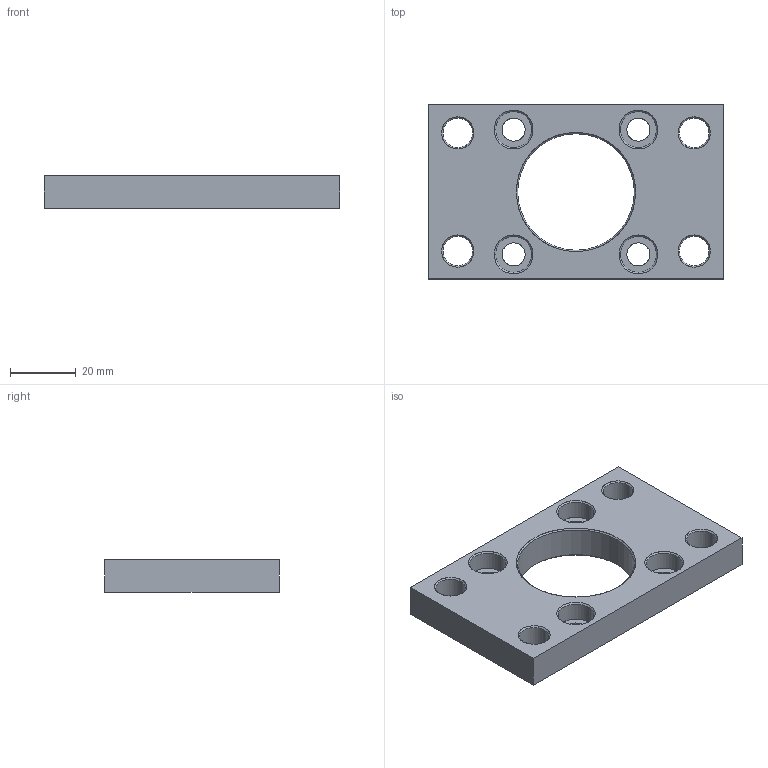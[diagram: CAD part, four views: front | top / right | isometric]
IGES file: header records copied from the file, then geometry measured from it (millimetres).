
Start section: SolidWorks IGES file using analytic representation for surfaces
Global section: file name: D:\ARICA 3D ÇÝZÝMLER\3D IGES\BAÐLANTI ELEMANLARI\DNC-FA FLANÞ SERÝSÝ\DNC-FA-40.IGS; native system: SolidWorks 2013; preprocessor: SolidWorks 2013; author: user; date: 150224.140631; units: millimetre
Bounding box: 90 x 53 x 10 mm (x, y, z)
Surface area: 12876.5 mm2 (no closed solid volume)
Topology: 0 solids, 0 shells, 72 faces, 1168 edges, 1168 vertices
Faces by surface type: revolution 62, bspline 10
